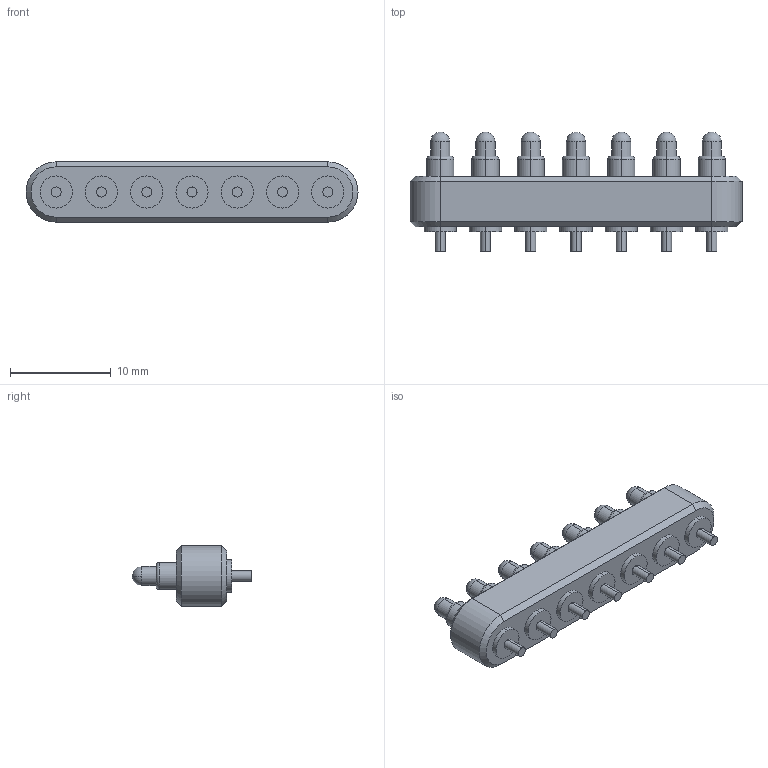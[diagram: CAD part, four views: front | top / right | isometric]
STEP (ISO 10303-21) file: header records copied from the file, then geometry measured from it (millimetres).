
FILE_DESCRIPTION((''),'2;1');
FILE_NAME('POGO_PIN_D1_9_MM_L9_9MM_7PIN_ASM','2021-05-29T16:11:19',('USER'),(''),'CREO PARAMETRIC BY PTC INC, 2018400','CREO PARAMETRIC BY PTC INC, 2018400','');
FILE_SCHEMA(('CONFIG_CONTROL_DESIGN','SHAPE_APPEARANCE_LAYERS_GROUPS'));
Length unit declared in the file: millimetre
Products named in the file (9): LPATTERN2_4_; LPATTERN2_5_; LPATTERN2_3_; REVOLVE1; CHAMFER1; LPATTERN2_2_; LPATTERN2_6_; LPATTERN2_1_; POGO_PIN_D1_9_MM_L9_9MM_7PIN_ASM
Assembly tree (8 placements, depth 2):
  POGO_PIN_D1_9_MM_L9_9MM_7PIN_ASM
    LPATTERN2_4_
    LPATTERN2_5_
    LPATTERN2_3_
    REVOLVE1
    CHAMFER1
    LPATTERN2_2_
    LPATTERN2_6_
    LPATTERN2_1_
Bounding box: 33 x 11.9 x 6 mm (x, y, z)
Volume: 1093.1 mm3; surface area: 1598.4 mm2
Topology: 8 solids, 8 shells, 147 faces, 322 edges, 199 vertices
Faces by surface type: cylinder 76, plane 37, torus 14, sphere 14, cone 6
Entity records: 6083 total; most frequent: DIRECTION 848, CARTESIAN_POINT 671, ORIENTED_EDGE 616, PRESENTATION_STYLE_ASSIGNMENT 430, AXIS2_PLACEMENT_3D 376, STYLED_ITEM 316, CURVE_STYLE 308, EDGE_CURVE 308
